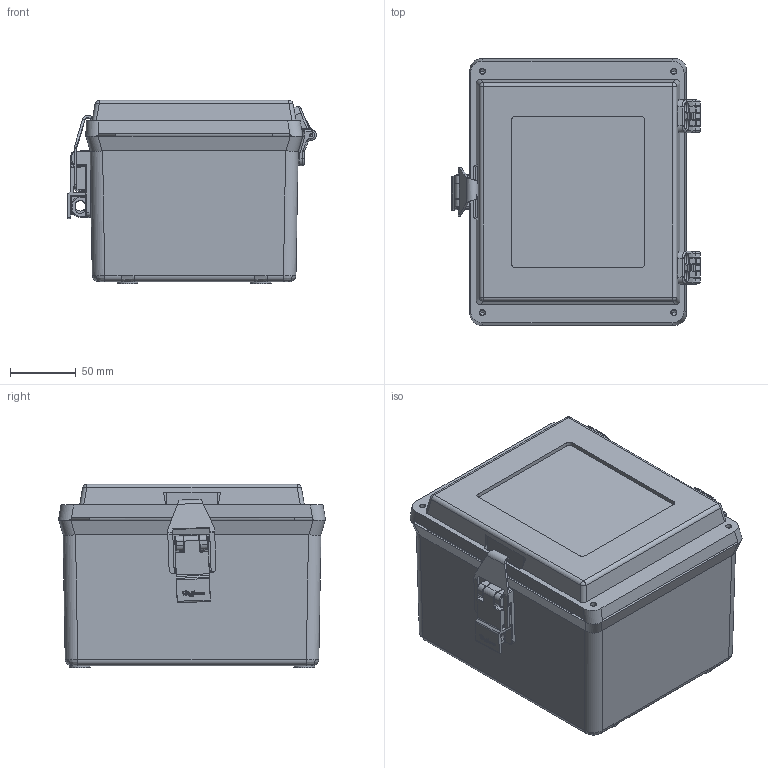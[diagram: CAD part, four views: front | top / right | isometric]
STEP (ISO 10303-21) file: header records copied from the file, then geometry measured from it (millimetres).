
FILE_DESCRIPTION (( 'STEP AP203' ), '1' );
FILE_NAME ('a865jfgqrpwr.STEP', '2019-12-20T21:13:28', ( '' ), ( '' ), 'SwSTEP 2.0', 'SolidWorks 2016', '' );
FILE_SCHEMA (( 'CONFIG_CONTROL_DESIGN' ));
Length unit declared in the file: inch
Products named in the file (16): 89102477; 87923480_WITH HOLE; a865jfgqrpwr; 23247001; 23248001; 23249001; 87923488_WITH HOLES; 87789767; 23149001; 87789763; 24221001; 14241007_14241007; 87745173_WITH HOLE; 87789765; 87789761; 89102517_BBD
Assembly tree (17 placements, depth 4):
  a865jfgqrpwr
    89102517_BBD
      87923488_WITH HOLES
      87745173_WITH HOLE
        87923480_WITH HOLE
        89102477
        24221001
      23249001  x2
        23247001
        23248001
        23149001
      87789767
        87789765
        87789763
        87789761
        14241007_14241007  x2
Bounding box: 189.81 x 203.81 x 139.95 mm (x, y, z)
Volume: 748030.3 mm3; surface area: 371015.5 mm2
Topology: 15 solids, 15 shells, 2233 faces, 5821 edges, 3567 vertices
Faces by surface type: plane 779, cylinder 716, bspline 342, torus 208, cone 134, sphere 54
Entity records: 58760 total; most frequent: CARTESIAN_POINT 17506, ORIENTED_EDGE 8844, DIRECTION 7609, EDGE_CURVE 4422, AXIS2_PLACEMENT_3D 2801, VERTEX_POINT 2764, VECTOR 2007, LINE 2007
